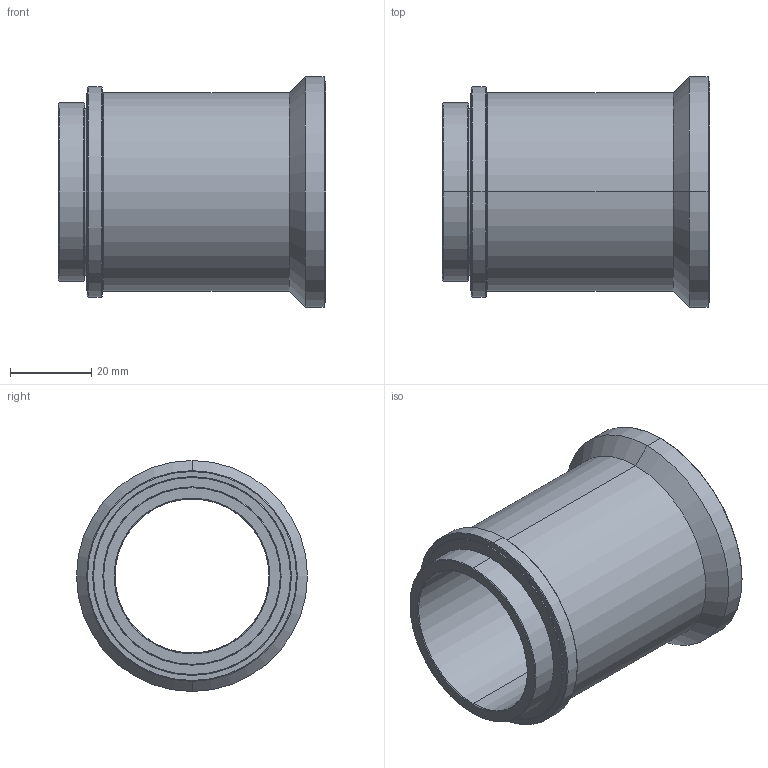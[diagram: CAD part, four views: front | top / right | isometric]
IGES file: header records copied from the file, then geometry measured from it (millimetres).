
Start section: SolidWorks IGES file using analytic representation for surfaces
Bounding box: 66 x 57 x 57 mm (x, y, z)
Surface area: 22482.5 mm2 (no closed solid volume)
Topology: 0 solids, 0 shells, 57 faces, 1344 edges, 1344 vertices
Faces by surface type: revolution 48, bspline 9
